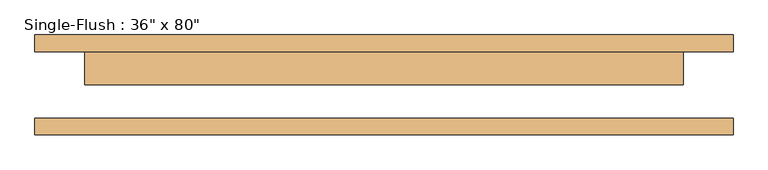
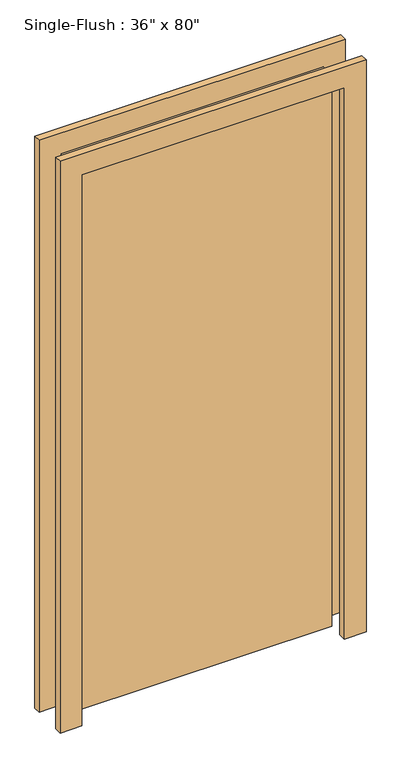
"""IFC4 building model written with IfcOpenShell, lengths in millimetres: door geometry."""

from ifc_helpers import new_model, si_unit, frame, origin, origin_with_axes, place, context, project, spatial, polyline, outline, extrude, source, transform, mapped, element, save


def door_e1b876b4(model_context):
    return source(origin(), model_context, "Body", "SweptSolid", [
        extrude(outline(polyline([(2108.2, -533.4), (0.0, -533.4), (0.0, -457.2), (2032.0, -457.2), (2032.0, 457.2), (0.0, 457.2), (0.0, 533.4), (2108.2, 533.4), (2108.2, -533.4)])), frame((0.0, 50.8, 0.0), z_axis=(0.0, 1.0, 0.0), x_axis=(0.0, 0.0, 1.0)), (0.0, 0.0, 1.0), 25.4),
        extrude(outline(polyline([(2108.2, 533.4), (2108.2, -533.4), (0.0, -533.4), (0.0, -457.2), (2032.0, -457.2), (2032.0, 457.2), (0.0, 457.2), (0.0, 533.4), (2108.2, 533.4)])), frame((0.0, -76.2, 0.0), z_axis=(0.0, 1.0, 0.0), x_axis=(0.0, 0.0, 1.0)), (0.0, 0.0, 1.0), 25.4),
        extrude(outline(polyline([(457.2, 0.0), (-457.2, 0.0), (-457.2, 50.8), (457.2, 50.8), (457.2, 0.0)])), origin_with_axes(), (0.0, 0.0, 1.0), 2032.0),
    ])


if __name__ == "__main__":
    model = new_model("IFC4")
    model_context = context("Model", 3, world=origin())
    ifc_project = project(units=[si_unit("LENGTHUNIT", "METRE", prefix="MILLI")], contexts=[model_context])
    site = spatial("IfcSite", under=ifc_project)
    building = spatial("IfcBuilding", under=site)
    placement = place(None, origin())
    door_shape = door_e1b876b4(model_context)
    element("IfcDoor", 1, ObjectType="Single-Flush : 36\" x 80\"", at=placement, inside=building, context=model_context, shape_type="MappedRepresentation", body=[
        mapped(door_shape, transform((0.0, 0.0, 0.0), x_axis=(1.0, 0.0, 0.0), y_axis=(0.0, 1.0, 0.0), z_axis=(0.0, 0.0, 1.0))),
    ])
    save(model, "model.ifc")
